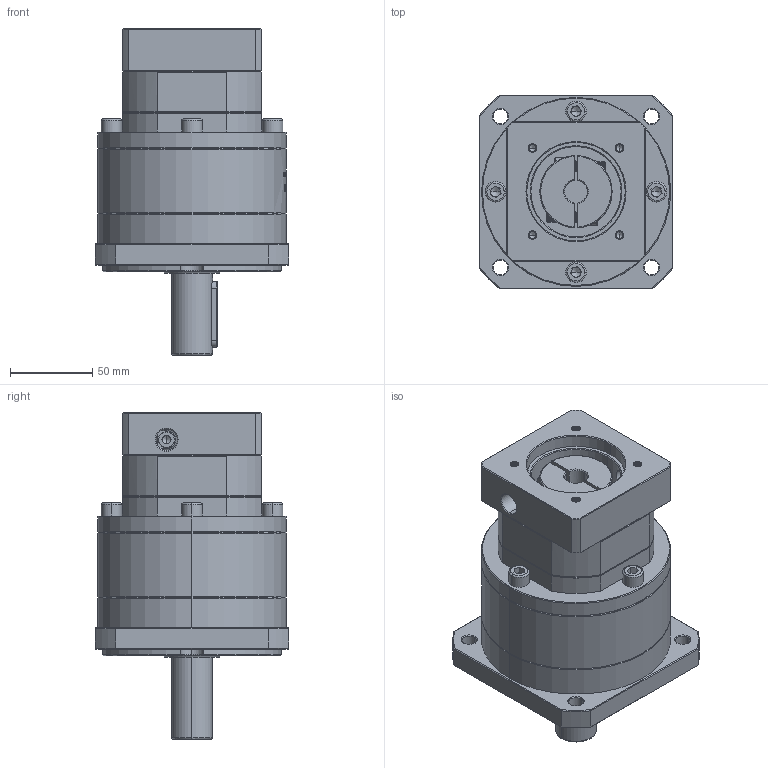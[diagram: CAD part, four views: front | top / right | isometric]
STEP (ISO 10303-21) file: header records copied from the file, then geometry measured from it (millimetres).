
FILE_DESCRIPTION (( 'STEP AP214' ), '1' );
FILE_NAME ('ZF120A-D25-L2-14-60-75-M5.step', '2023-03-07T15:00:07', ( '' ), ( 'Microsoft' ), 'SwSTEP 2.0', 'SolidWorks 2016', '' );
FILE_SCHEMA (( 'AUTOMOTIVE_DESIGN' ));
Length unit declared in the file: millimetre
Products named in the file (1): ZF120A-D25-L2-14-60-75-M5
Bounding box: 118 x 118 x 199 mm (x, y, z)
Volume: 1287718.5 mm3; surface area: 125951.3 mm2
Topology: 5 solids, 6 shells, 1941 faces, 5081 edges, 3232 vertices
Faces by surface type: plane 883, cylinder 402, bspline 321, cone 320, torus 15
Entity records: 105207 total; most frequent: CARTESIAN_POINT 39935, ORIENTED_EDGE 10102, DIRECTION 7797, EDGE_CURVE 5051, VERTEX_POINT 3232, LINE 2753, VECTOR 2753, AXIS2_PLACEMENT_3D 2522
